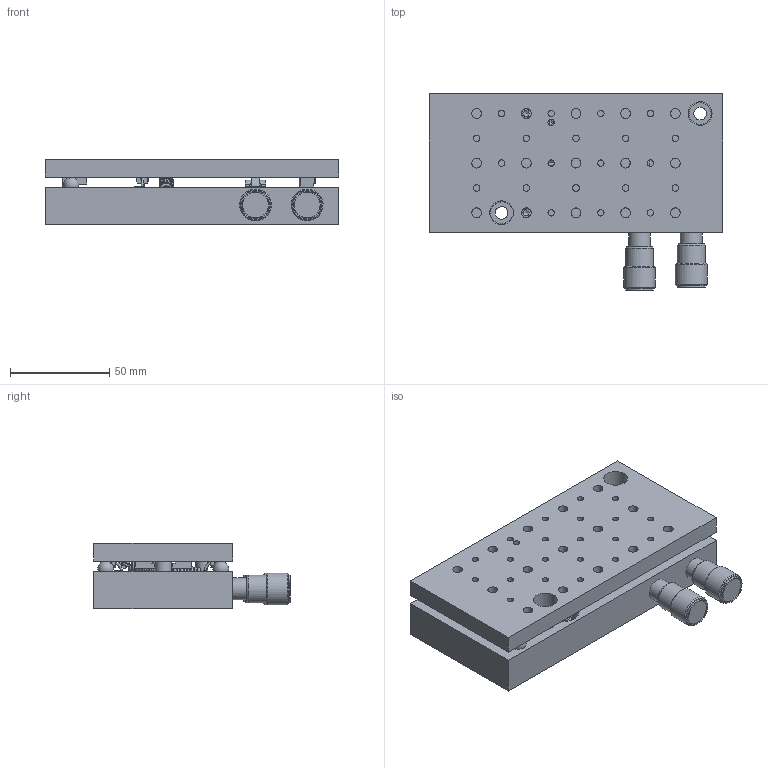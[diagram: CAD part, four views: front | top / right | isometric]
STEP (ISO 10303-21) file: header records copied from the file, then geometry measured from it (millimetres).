
FILE_DESCRIPTION(/* description */ (''),/* implementation_level */ '2;1');
FILE_NAME(/* name */ 'C:\Users\dsgn39.CENTRAS\Desktop\Internetui\6TP115\6TP115.stp',/* time_stamp */ '2019-12-30T09:06:15+02:00',/* author */ ('dsgn39'),/* organization */ (''),/* preprocessor_version */ 'ST-DEVELOPER v15.2',/* originating_system */ 'Autodesk Inventor 2014',/* authorisation */ '');
FILE_SCHEMA (('AUTOMOTIVE_DESIGN { 1 0 10303 214 3 1 1 }'));
Length unit declared in the file: millimetre
Products named in the file (2): Part70; Assembly2
Bounding box: 148 x 99 x 33 mm (x, y, z)
Surface area: 68704.4 mm2
Topology: 7 solids, 9 shells, 568 faces, 1560 edges, 1041 vertices
Faces by surface type: plane 245, bspline 140, cylinder 121, cone 41, torus 11, sphere 10
Full cylindrical faces by diameter (mm): 2.729 x2, 3 x2, 3.242 x24, 3.4 x2, 4 x2, 4.917 x19, 6 x3, 6.4 x2, 6.917 x2, 8 x1, 8.1 x2, 9.4 x2, 11 x3, 12 x4, 13 x2, 14 x4, 16 x3
Entity records: 24825 total; most frequent: CARTESIAN_POINT 12018, ORIENTED_EDGE 2726, DIRECTION 2132, EDGE_CURVE 1361, VERTEX_POINT 965, EDGE_LOOP 883, AXIS2_PLACEMENT_3D 758, LINE 616
